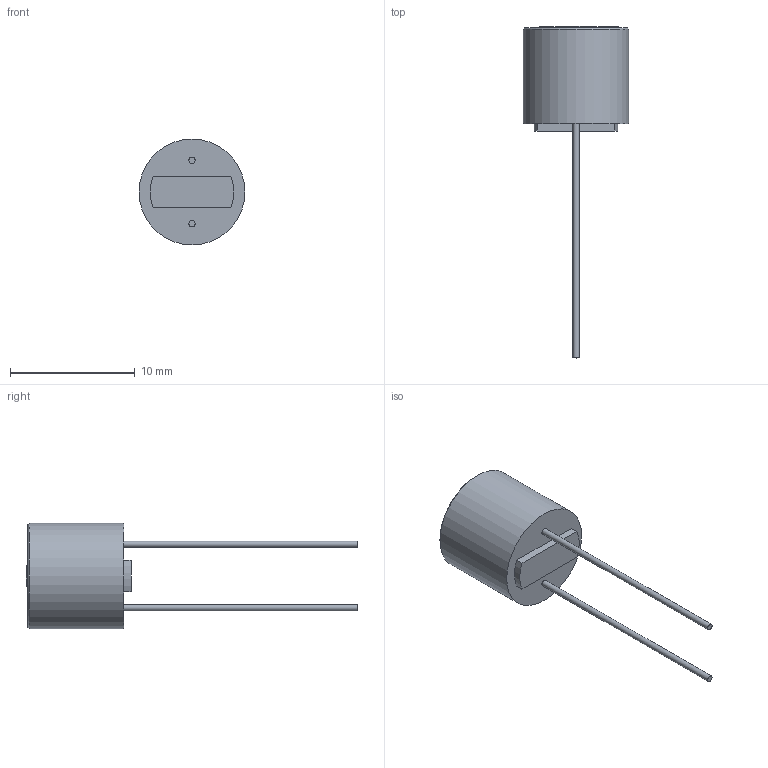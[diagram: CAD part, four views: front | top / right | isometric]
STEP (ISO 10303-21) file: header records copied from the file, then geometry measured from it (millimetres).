
FILE_DESCRIPTION(/* description */ (''),/* implementation_level */ '2;1');
FILE_NAME(/* name */ 'C:\Users\Hani\Desktop\work\TMR\TMR.stp',/* time_stamp */ '2021-08-22T08:51:24-07:00',/* author */ ('Hani'),/* organization */ (''),/* preprocessor_version */ 'ST-DEVELOPER v17',/* originating_system */ 'Autodesk Inventor 2019',/* authorisation */ '');
FILE_SCHEMA (('AUTOMOTIVE_DESIGN { 1 0 10303 214 3 1 1 }'));
Length unit declared in the file: inch
Products named in the file (1): TMR
Bounding box: 8.5 x 26.63 x 8.5 mm (x, y, z)
Volume: 454.5 mm3; surface area: 391.8 mm2
Topology: 1 solids, 1 shells, 149 faces, 395 edges, 263 vertices
Faces by surface type: plane 76, bspline 67, cylinder 5, cone 1
Full cylindrical faces by diameter (mm): 0.5 x2, 8.5 x1
Entity records: 5230 total; most frequent: CARTESIAN_POINT 1899, ORIENTED_EDGE 790, DIRECTION 438, EDGE_CURVE 395, VERTEX_POINT 263, LINE 250, VECTOR 250, EDGE_LOOP 164
